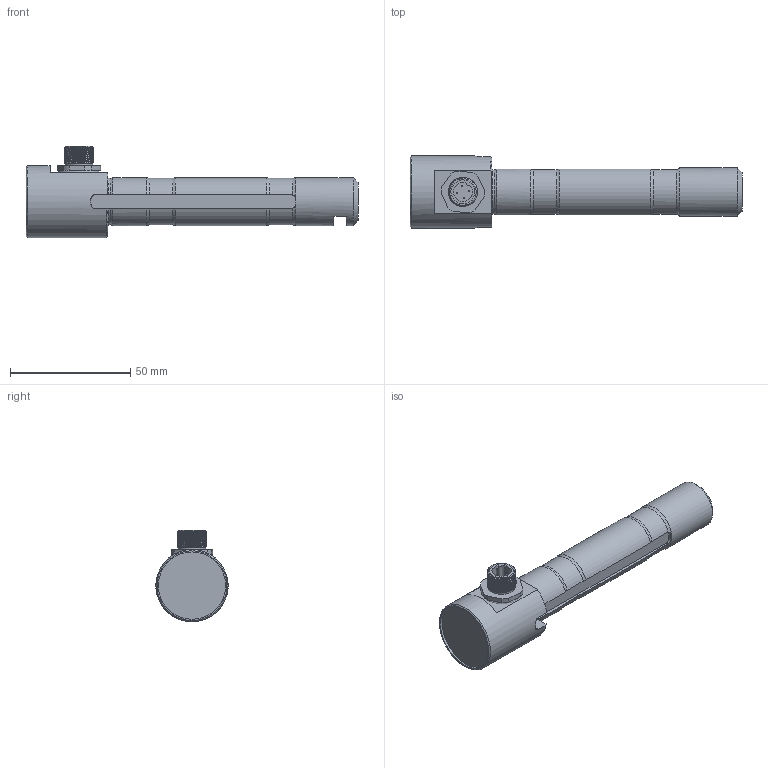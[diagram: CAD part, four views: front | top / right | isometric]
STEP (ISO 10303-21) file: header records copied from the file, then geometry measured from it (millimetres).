
FILE_DESCRIPTION(/* description */ ('Alibre Inc.'),/* implementation_level */ '2;1');
FILE_NAME(/* name */ 'export1',/* time_stamp */ '2018-05-22T11:29:58+02:00',/* author */ (''),/* organization */ (''),/* preprocessor_version */ 'ST-DEVELOPER v17',/* originating_system */ 'Alibre',/* authorisation */ '');
FILE_SCHEMA (('CONFIG_CONTROL_DESIGN'));
Length unit declared in the file: millimetre
Products named in the file (6): ID_1; ID_2; ID_3; ID_4
Bounding box: 138 x 30 x 38 mm (x, y, z)
Volume: 52229.2 mm3; surface area: 15521.1 mm2
Topology: 8 solids, 8 shells, 162 faces, 387 edges, 245 vertices
Faces by surface type: plane 60, cylinder 55, bspline 23, torus 13, cone 11
Full cylindrical faces by diameter (mm): 0.5 x8, 8 x2, 10 x3, 11.5 x1, 13 x1, 14.376 x1, 20 x1, 28 x1, 30 x1
Entity records: 15016 total; most frequent: CARTESIAN_POINT 11447, ORIENTED_EDGE 702, DIRECTION 427, EDGE_CURVE 346, VERTEX_POINT 234, FACE_BOUND 203, EDGE_LOOP 201, AXIS2_PLACEMENT_3D 187
